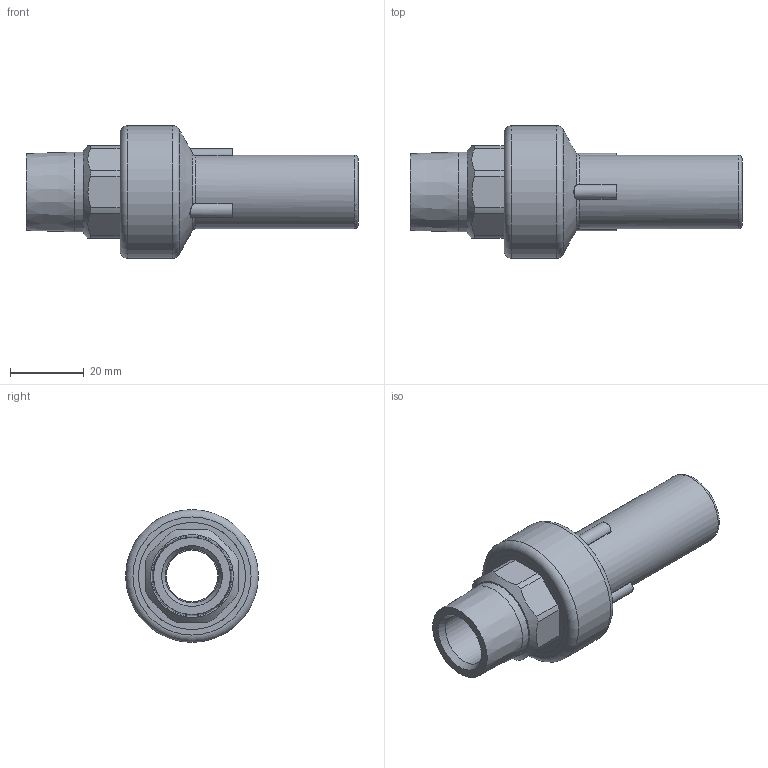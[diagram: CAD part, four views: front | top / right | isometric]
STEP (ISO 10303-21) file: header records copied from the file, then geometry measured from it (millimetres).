
FILE_DESCRIPTION(/* description */ ('Unknown'),/* implementation_level */ '2;1');
FILE_NAME(/* name */ 'RTOMP020C',/* time_stamp */ '2021-03-01T17:07:17+01:00',/* author */ ('Unknown'),/* organization */ ('Unknown'),/* preprocessor_version */ 'ST-DEVELOPER v16.7',/* originating_system */ 'Solid Edge',/* authorisation */ 'Unknown');
FILE_SCHEMA (('AUTOMOTIVE_DESIGN {1 0 10303 214 3 1 1}'));
Length unit declared in the file: millimetre
Products named in the file (3): RTOMP020C; Parte PE 020; IOM020C
Assembly tree (2 placements, depth 2):
  RTOMP020C
    Parte PE 020
    IOM020C
Bounding box: 90 x 36 x 36 mm (x, y, z)
Volume: 28548.5 mm3; surface area: 17855.2 mm2
Topology: 2 solids, 2 shells, 167 faces, 409 edges, 263 vertices
Faces by surface type: plane 96, cylinder 40, bspline 15, torus 12, cone 4
Full cylindrical faces by diameter (mm): 14 x1, 14.5 x1, 18.5 x2, 20 x1, 21.5 x2, 21.7 x1, 25 x4, 26.4 x2, 29 x8, 36 x1
Entity records: 5507 total; most frequent: CARTESIAN_POINT 1132, DIRECTION 812, ORIENTED_EDGE 742, EDGE_CURVE 371, AXIS2_PLACEMENT_3D 324, VERTEX_POINT 255, EDGE_LOOP 218, FACE_BOUND 218
